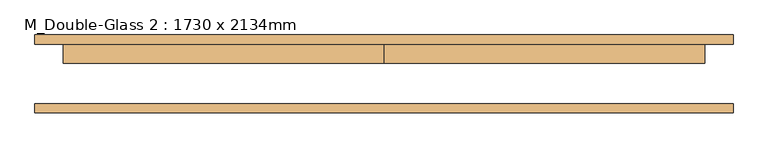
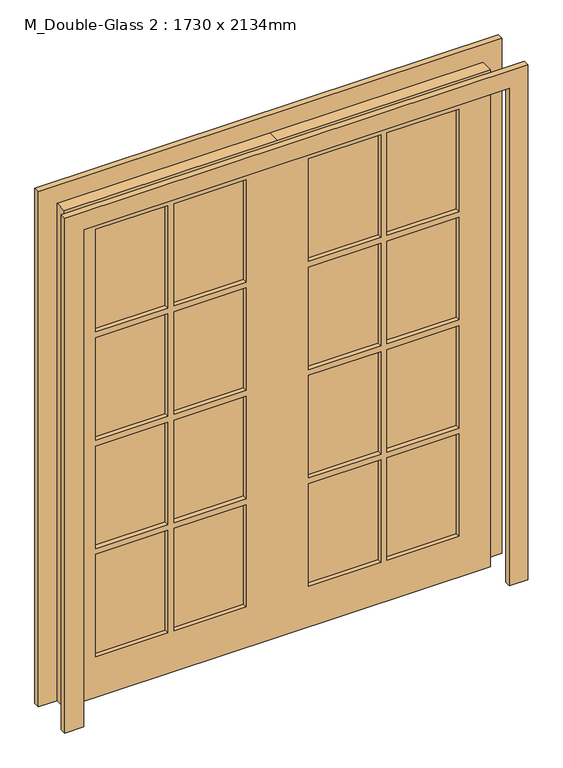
"""IFC4 building model written with IfcOpenShell, lengths in millimetres: door geometry, M_Double-Glass 2 : 1730 x 2134mm."""

from ifc_helpers import new_model, si_unit, frame, origin, place, context, project, spatial, polyline, outline, extrude, source, transform, mapped, element, save


def m_double_glass_2_1730_x_2134mm_148375e1(model_context):
    return source(origin(), model_context, "Body", "SweptSolid", [
        extrude(outline(polyline([(445.0, 60.95), (738.0, 60.95), (738.0, 48.25), (445.0, 48.25), (445.0, 60.95)])), frame((0.0, 0.0, 1569.25), z_axis=(0.0, 0.0, 1.0), x_axis=(1.0, 0.0, 0.0)), (0.0, 0.0, 1.0), 439.75),
        extrude(outline(polyline([(127.0, 60.95), (420.0, 60.95), (420.0, 48.25), (127.0, 48.25), (127.0, 60.95)])), frame((0.0, 0.0, 1569.25), z_axis=(0.0, 0.0, 1.0), x_axis=(1.0, 0.0, 0.0)), (0.0, 0.0, 1.0), 439.75),
        extrude(outline(polyline([(-420.0, 60.95), (-127.0, 60.95), (-127.0, 48.25), (-420.0, 48.25), (-420.0, 60.95)])), frame((0.0, 0.0, 1569.25), z_axis=(0.0, 0.0, 1.0), x_axis=(1.0, 0.0, 0.0)), (0.0, 0.0, 1.0), 439.75),
        extrude(outline(polyline([(-738.0, 60.95), (-445.0, 60.95), (-445.0, 48.25), (-738.0, 48.25), (-738.0, 60.95)])), frame((0.0, 0.0, 1569.25), z_axis=(0.0, 0.0, 1.0), x_axis=(1.0, 0.0, 0.0)), (0.0, 0.0, 1.0), 439.75),
        extrude(outline(polyline([(-738.0, 60.95), (-445.0, 60.95), (-445.0, 48.25), (-738.0, 48.25), (-738.0, 60.95)])), frame((0.0, 0.0, 1104.5), z_axis=(0.0, 0.0, 1.0), x_axis=(1.0, 0.0, 0.0)), (0.0, 0.0, 1.0), 439.75),
        extrude(outline(polyline([(-420.0, 60.95), (-127.0, 60.95), (-127.0, 48.25), (-420.0, 48.25), (-420.0, 60.95)])), frame((0.0, 0.0, 1104.5), z_axis=(0.0, 0.0, 1.0), x_axis=(1.0, 0.0, 0.0)), (0.0, 0.0, 1.0), 439.75),
        extrude(outline(polyline([(127.0, 60.95), (420.0, 60.95), (420.0, 48.25), (127.0, 48.25), (127.0, 60.95)])), frame((0.0, 0.0, 1104.5), z_axis=(0.0, 0.0, 1.0), x_axis=(1.0, 0.0, 0.0)), (0.0, 0.0, 1.0), 439.75),
        extrude(outline(polyline([(445.0, 60.95), (738.0, 60.95), (738.0, 48.25), (445.0, 48.25), (445.0, 60.95)])), frame((0.0, 0.0, 1104.5), z_axis=(0.0, 0.0, 1.0), x_axis=(1.0, 0.0, 0.0)), (0.0, 0.0, 1.0), 439.75),
        extrude(outline(polyline([(445.0, 60.95), (738.0, 60.95), (738.0, 48.25), (445.0, 48.25), (445.0, 60.95)])), frame((0.0, 0.0, 639.75), z_axis=(0.0, 0.0, 1.0), x_axis=(1.0, 0.0, 0.0)), (0.0, 0.0, 1.0), 439.75),
        extrude(outline(polyline([(127.0, 60.95), (420.0, 60.95), (420.0, 48.25), (127.0, 48.25), (127.0, 60.95)])), frame((0.0, 0.0, 639.75), z_axis=(0.0, 0.0, 1.0), x_axis=(1.0, 0.0, 0.0)), (0.0, 0.0, 1.0), 439.75),
        extrude(outline(polyline([(-420.0, 60.95), (-127.0, 60.95), (-127.0, 48.25), (-420.0, 48.25), (-420.0, 60.95)])), frame((0.0, 0.0, 639.75), z_axis=(0.0, 0.0, 1.0), x_axis=(1.0, 0.0, 0.0)), (0.0, 0.0, 1.0), 439.75),
        extrude(outline(polyline([(-738.0, 60.95), (-445.0, 60.95), (-445.0, 48.25), (-738.0, 48.25), (-738.0, 60.95)])), frame((0.0, 0.0, 639.75), z_axis=(0.0, 0.0, 1.0), x_axis=(1.0, 0.0, 0.0)), (0.0, 0.0, 1.0), 439.75),
        extrude(outline(polyline([(445.0, 60.95), (738.0, 60.95), (738.0, 48.25), (445.0, 48.25), (445.0, 60.95)])), frame((0.0, 0.0, 175.0), z_axis=(0.0, 0.0, 1.0), x_axis=(1.0, 0.0, 0.0)), (0.0, 0.0, 1.0), 439.75),
        extrude(outline(polyline([(127.0, 60.95), (420.0, 60.95), (420.0, 48.25), (127.0, 48.25), (127.0, 60.95)])), frame((0.0, 0.0, 175.0), z_axis=(0.0, 0.0, 1.0), x_axis=(1.0, 0.0, 0.0)), (0.0, 0.0, 1.0), 439.75),
        extrude(outline(polyline([(-420.0, 60.95), (-127.0, 60.95), (-127.0, 48.25), (-420.0, 48.25), (-420.0, 60.95)])), frame((0.0, 0.0, 175.0), z_axis=(0.0, 0.0, 1.0), x_axis=(1.0, 0.0, 0.0)), (0.0, 0.0, 1.0), 439.75),
        extrude(outline(polyline([(-738.0, 60.95), (-445.0, 60.95), (-445.0, 48.25), (-738.0, 48.25), (-738.0, 60.95)])), frame((0.0, 0.0, 175.0), z_axis=(0.0, 0.0, 1.0), x_axis=(1.0, 0.0, 0.0)), (0.0, 0.0, 1.0), 439.75),
        extrude(outline(polyline([(2134.0, 0.0), (2134.0, -865.0), (0.0, -865.0), (0.0, 0.0), (0.0, 865.0), (2134.0, 865.0), (2134.0, 0.0)]), holes=[polyline([(2009.0, 445.0), (2009.0, 738.0), (1569.25, 738.0), (1569.25, 445.0), (2009.0, 445.0)]), polyline([(2009.0, 127.0), (2009.0, 420.0), (1569.25, 420.0), (1569.25, 127.0), (2009.0, 127.0)]), polyline([(1544.25, 445.0), (1544.25, 738.0), (1104.5, 738.0), (1104.5, 445.0), (1544.25, 445.0)]), polyline([(1544.25, 127.0), (1544.25, 420.0), (1104.5, 420.0), (1104.5, 127.0), (1544.25, 127.0)]), polyline([(1079.5, 445.0), (1079.5, 738.0), (639.75, 738.0), (639.75, 445.0), (1079.5, 445.0)]), polyline([(1079.5, 127.0), (1079.5, 420.0), (639.75, 420.0), (639.75, 127.0), (1079.5, 127.0)]), polyline([(614.75, 445.0), (614.75, 738.0), (175.0, 738.0), (175.0, 445.0), (614.75, 445.0)]), polyline([(614.75, 127.0), (614.75, 420.0), (175.0, 420.0), (175.0, 127.0), (614.75, 127.0)]), polyline([(2009.0, -420.0), (2009.0, -127.0), (1569.25, -127.0), (1569.25, -420.0), (2009.0, -420.0)]), polyline([(1544.25, -420.0), (1544.25, -127.0), (1104.5, -127.0), (1104.5, -420.0), (1544.25, -420.0)]), polyline([(1544.25, -445.0), (1104.5, -445.0), (1104.5, -738.0), (1544.25, -738.0), (1544.25, -445.0)]), polyline([(1079.5, -420.0), (1079.5, -127.0), (639.75, -127.0), (639.75, -420.0), (1079.5, -420.0)]), polyline([(1079.5, -445.0), (639.75, -445.0), (639.75, -738.0), (1079.5, -738.0), (1079.5, -445.0)]), polyline([(614.75, -420.0), (614.75, -127.0), (175.0, -127.0), (175.0, -420.0), (614.75, -420.0)]), polyline([(614.75, -738.0), (614.75, -445.0), (175.0, -445.0), (175.0, -738.0), (614.75, -738.0)]), polyline([(1569.25, -445.0), (1569.25, -738.0), (2009.0, -738.0), (2009.0, -445.0), (1569.25, -445.0)])]), frame((0.0, 29.0, 0.0), z_axis=(0.0, 1.0, 0.0), x_axis=(0.0, 0.0, 1.0)), (0.0, 0.0, 1.0), 51.0),
        extrude(outline(polyline([(2134.0, -865.0), (2134.0, 865.0), (0.0, 865.0), (0.0, 941.0), (2210.0, 941.0), (2210.0, -941.0), (0.0, -941.0), (0.0, -865.0), (2134.0, -865.0)])), frame((0.0, -105.0, 0.0), z_axis=(0.0, 1.0, 0.0), x_axis=(0.0, 0.0, 1.0)), (0.0, 0.0, 1.0), 25.0),
        extrude(outline(polyline([(2134.0, -865.0), (2134.0, 865.0), (0.0, 865.0), (0.0, 941.0), (2210.0, 941.0), (2210.0, -941.0), (0.0, -941.0), (0.0, -865.0), (2134.0, -865.0)])), frame((0.0, 80.0, 0.0), z_axis=(0.0, 1.0, 0.0), x_axis=(0.0, 0.0, 1.0)), (0.0, 0.0, 1.0), 25.0),
    ])


if __name__ == "__main__":
    model = new_model("IFC4")
    model_context = context("Model", 3, world=origin())
    ifc_project = project(units=[si_unit("LENGTHUNIT", "METRE", prefix="MILLI")], contexts=[model_context])
    site = spatial("IfcSite", under=ifc_project)
    building = spatial("IfcBuilding", under=site)
    placement = place(None, origin())
    m_double_glass_2_1730_x_2134mm_shape = m_double_glass_2_1730_x_2134mm_148375e1(model_context)
    element("IfcDoor", 1, ObjectType="M_Double-Glass 2 : 1730 x 2134mm", at=placement, inside=building, context=model_context, shape_type="MappedRepresentation", body=[
        mapped(m_double_glass_2_1730_x_2134mm_shape, transform((0.0, 0.0, 0.0), x_axis=(1.0, 0.0, 0.0), y_axis=(0.0, 1.0, 0.0), z_axis=(0.0, 0.0, 1.0))),
    ])
    save(model, "model.ifc")
